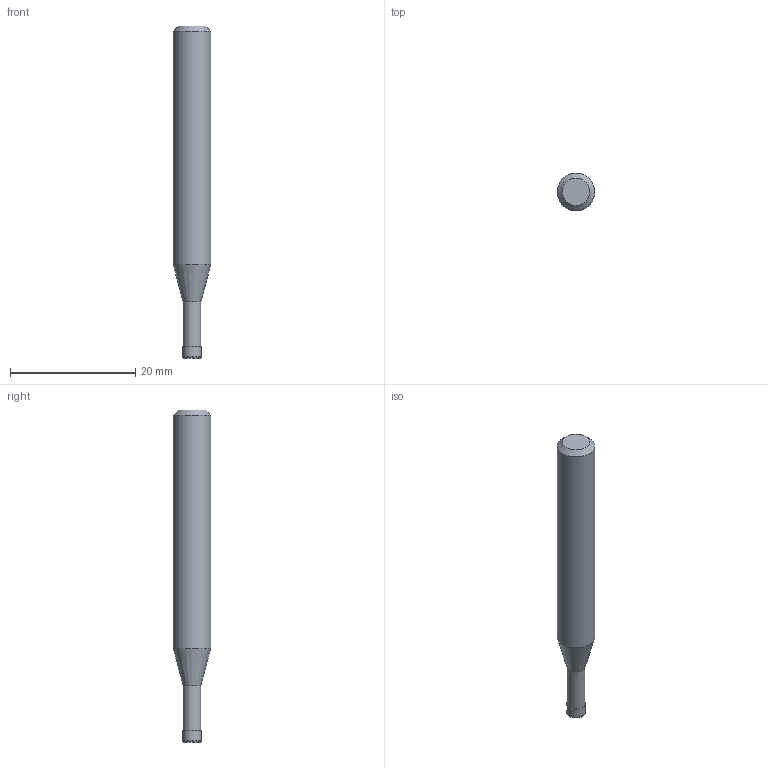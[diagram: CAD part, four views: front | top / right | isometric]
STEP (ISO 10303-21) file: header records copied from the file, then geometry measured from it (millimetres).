
FILE_DESCRIPTION((''),'2;1');
FILE_NAME('C:\Users\nsx150\AppData\Local\Temp\Mastercam 2021\LJSIDMOTM8\TEMP.step','2021-08-03T14:06:16',(''),(''),'STEP Write','Mastercam 2021 ... CNC Software, Inc.','');
FILE_SCHEMA(('AUTOMOTIVE_DESIGN'));
Length unit declared in the file: millimetre
Products named in the file (1): None
Bounding box: 6 x 6 x 53 mm (x, y, z)
Volume: 1225.2 mm3; surface area: 922.9 mm2
Topology: 2 solids, 2 shells, 10 faces, 14 edges, 8 vertices
Faces by surface type: plane 4, cylinder 3, cone 2, torus 1
Full cylindrical faces by diameter (mm): 2.85 x1, 3 x1, 6 x1
Entity records: 232 total; most frequent: DIRECTION 40, CARTESIAN_POINT 28, AXIS2_PLACEMENT_3D 20, ORIENTED_EDGE 16, EDGE_LOOP 16, STYLED_ITEM 13, ADVANCED_FACE 10, FACE_BOUND 10
